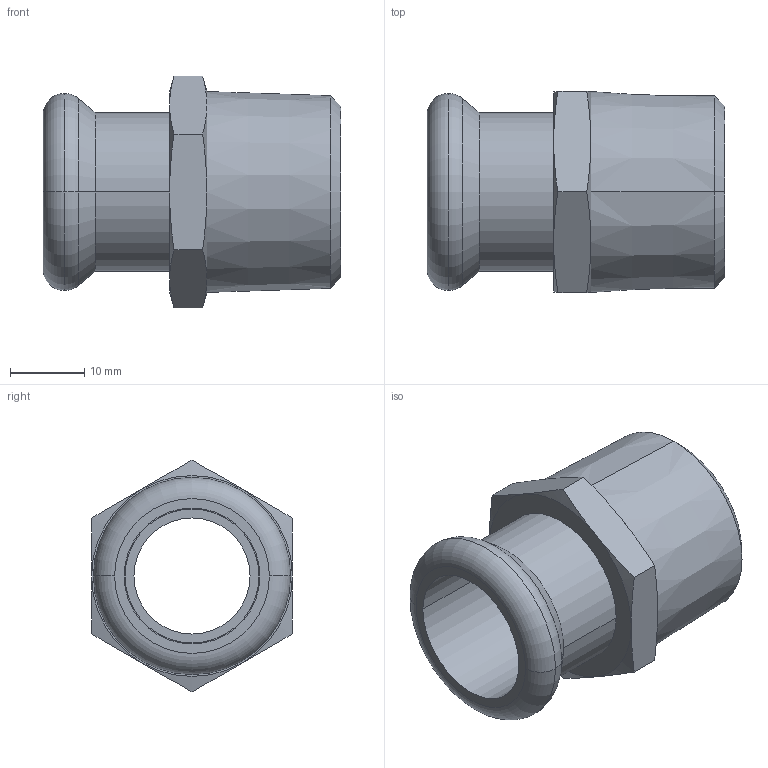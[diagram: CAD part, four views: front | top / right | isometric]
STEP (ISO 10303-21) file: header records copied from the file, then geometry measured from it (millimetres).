
FILE_DESCRIPTION(('CoCreate Modeling STEP Export'),'2;1');
FILE_NAME('C1405 18xR3-4.stp','2014-11-07T14:16:34',(''),(''),'CoCreate Modeling STEP processor for AP214 (Solid Model)','CoCreate Modeling 17.00A 17-Jun-2010 (C) Parametric Technology GmbH','');
FILE_SCHEMA(('AUTOMOTIVE_DESIGN { 1 0 10303 214 1 1 1 1 }'));
Length unit declared in the file: millimetre
Products named in the file (2): C1405_18xR3-4
Assembly tree (1 placements, depth 2):
  C1405_18xR3-4
    C1405_18xR3-4
Bounding box: 40 x 27 x 31.18 mm (x, y, z)
Volume: 8610.9 mm3; surface area: 6607.8 mm2
Topology: 1 solids, 1 shells, 46 faces, 103 edges, 63 vertices
Faces by surface type: cone 20, plane 12, cylinder 10, torus 4
Entity records: 1654 total; most frequent: CARTESIAN_POINT 777, ORIENTED_EDGE 206, DIRECTION 120, EDGE_CURVE 103, VERTEX_POINT 63, EDGE_LOOP 52, AXIS2_PLACEMENT_3D 48, FACE_OUTER_BOUND 46
